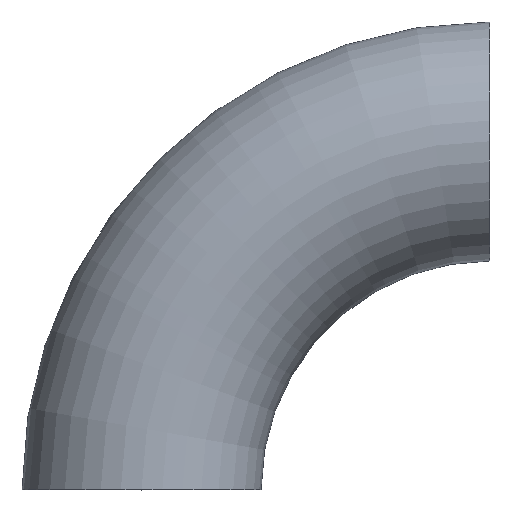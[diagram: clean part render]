
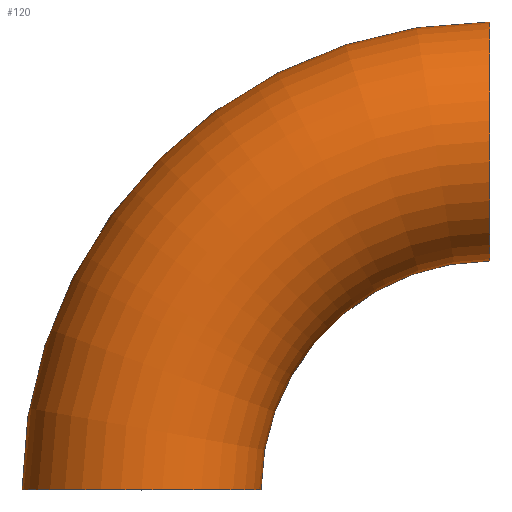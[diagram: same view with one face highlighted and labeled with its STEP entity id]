
A CAD part, top view. The second image highlights one B-rep face of the part: STEP entity #120.
In plain terms, the highlighted toroidal (fillet/blend) face has major radius 188 mm and minor radius 64.5 mm.
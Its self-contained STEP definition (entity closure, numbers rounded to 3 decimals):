
#4 = EDGE_CURVE ( 'NONE', #124, #247, #11, .T. ) ;
#7 = DIRECTION ( 'NONE',  ( 0., 1., 0. ) ) ;
#8 = CARTESIAN_POINT ( 'NONE',  ( 188., 0., 0. ) ) ;
#11 = CIRCLE ( 'NONE', #200, 64.5 ) ;
#19 = EDGE_CURVE ( 'NONE', #182, #247, #158, .T. ) ;
#30 = DIRECTION ( 'NONE',  ( 0., 0., 1. ) ) ;
#33 = CIRCLE ( 'NONE', #191, 252.5 ) ;
#39 = CARTESIAN_POINT ( 'NONE',  ( 188., 0., 0. ) ) ;
#43 = DIRECTION ( 'NONE',  ( 1., 0., 0. ) ) ;
#44 = EDGE_CURVE ( 'NONE', #138, #182, #111, .T. ) ;
#46 = TOROIDAL_SURFACE ( 'NONE', #110, 188., 64.5 ) ;
#49 = DIRECTION ( 'NONE',  ( 0., 0., 1. ) ) ;
#69 = EDGE_LOOP ( 'NONE', ( #169, #210, #223, #215 ) ) ;
#86 = DIRECTION ( 'NONE',  ( 0., 0., 1. ) ) ;
#100 = CARTESIAN_POINT ( 'NONE',  ( 188., 0., 0. ) ) ;
#101 = CARTESIAN_POINT ( 'NONE',  ( 188., 252.5, 0. ) ) ;
#104 = DIRECTION ( 'NONE',  ( 1., 0., 0. ) ) ;
#106 = CARTESIAN_POINT ( 'NONE',  ( 188., 188., 0. ) ) ;
#110 = AXIS2_PLACEMENT_3D ( 'NONE', #8, #219, #244 ) ;
#111 = CIRCLE ( 'NONE', #243, 64.5 ) ;
#120 = ADVANCED_FACE ( 'NONE', ( #148 ), #46, .T. ) ;
#124 = VERTEX_POINT ( 'NONE', #218 ) ;
#138 = VERTEX_POINT ( 'NONE', #101 ) ;
#148 = FACE_OUTER_BOUND ( 'NONE', #69, .T. ) ;
#156 = CARTESIAN_POINT ( 'NONE',  ( 188., 123.5, 0. ) ) ;
#158 = CIRCLE ( 'NONE', #213, 123.5 ) ;
#163 = DIRECTION ( 'NONE',  ( 1., 0., 0. ) ) ;
#169 = ORIENTED_EDGE ( 'NONE', *, *, #44, .F. ) ;
#179 = CARTESIAN_POINT ( 'NONE',  ( 0., 0., 0. ) ) ;
#182 = VERTEX_POINT ( 'NONE', #156 ) ;
#191 = AXIS2_PLACEMENT_3D ( 'NONE', #39, #30, #163 ) ;
#200 = AXIS2_PLACEMENT_3D ( 'NONE', #179, #7, #86 ) ;
#210 = ORIENTED_EDGE ( 'NONE', *, *, #246, .T. ) ;
#213 = AXIS2_PLACEMENT_3D ( 'NONE', #100, #237, #43 ) ;
#215 = ORIENTED_EDGE ( 'NONE', *, *, #19, .F. ) ;
#218 = CARTESIAN_POINT ( 'NONE',  ( -64.5, 0., 0. ) ) ;
#219 = DIRECTION ( 'NONE',  ( 0., 0., 1. ) ) ;
#223 = ORIENTED_EDGE ( 'NONE', *, *, #4, .T. ) ;
#232 = CARTESIAN_POINT ( 'NONE',  ( 64.5, 0., 0. ) ) ;
#237 = DIRECTION ( 'NONE',  ( 0., 0., 1. ) ) ;
#243 = AXIS2_PLACEMENT_3D ( 'NONE', #106, #104, #49 ) ;
#244 = DIRECTION ( 'NONE',  ( 1., 0., 0. ) ) ;
#246 = EDGE_CURVE ( 'NONE', #138, #124, #33, .T. ) ;
#247 = VERTEX_POINT ( 'NONE', #232 ) ;
